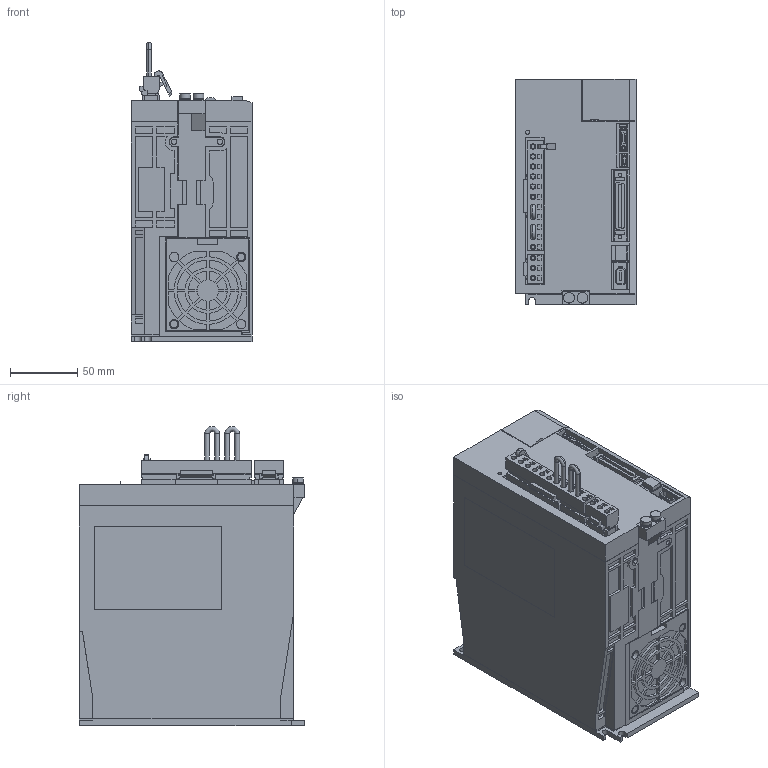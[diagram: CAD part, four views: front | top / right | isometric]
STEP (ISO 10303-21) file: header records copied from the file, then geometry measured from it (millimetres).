
FILE_DESCRIPTION (( 'STEP AP203' ), '1' );
FILE_NAME ('sgd7s_120a00a000f82.STEP', '2016-12-26T08:24:28', ( '匠エンジニアリング山之内' ), ( 'TAKUMI-Engniaring' ), 'SwSTEP 2.0', 'SolidWorks 2006303', '' );
FILE_SCHEMA (( 'CONFIG_CONTROL_DESIGN' ));
Length unit declared in the file: millimetre
Products named in the file (10): sgd7s_120a00a000f82_connector; sgd7s_120a00a000f82_cover2; sgd7s_120a00a000f82_connector_3; sgd7s_120a00a000f82; sgd7s_120a00a000f82_base; sgd7s_120a00a000f82_connector_2; sgd7s_120a00a000f82_pin; sgd7s_120a00a000f82_cable; sgd7s_120a00a000f82_connector_1; sgd7s_120a00a000f82_cover
Assembly tree (11 placements, depth 3):
  sgd7s_120a00a000f82
    sgd7s_120a00a000f82_connector_3
    sgd7s_120a00a000f82_cover
    sgd7s_120a00a000f82_base
    sgd7s_120a00a000f82_cover2  x2
    sgd7s_120a00a000f82_connector_1
    sgd7s_120a00a000f82_connector
      sgd7s_120a00a000f82_pin
      sgd7s_120a00a000f82_connector_2
      sgd7s_120a00a000f82_cable  x2
Bounding box: 90.5 x 168 x 223 mm (x, y, z)
Volume: 2550812.8 mm3; surface area: 171929.6 mm2
Topology: 10 solids, 10 shells, 1946 faces, 4962 edges, 3278 vertices
Faces by surface type: plane 1636, cylinder 301, cone 4, torus 4, sphere 1
Entity records: 58174 total; most frequent: CARTESIAN_POINT 10034, ORIENTED_EDGE 9764, DIRECTION 9332, EDGE_CURVE 4882, VECTOR 4284, LINE 4284, VERTEX_POINT 3226, AXIS2_PLACEMENT_3D 2524
